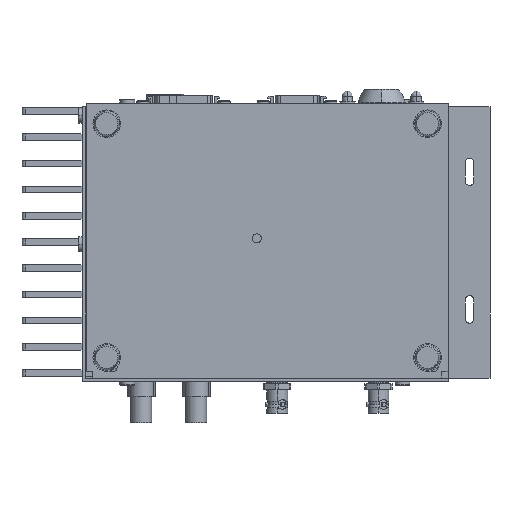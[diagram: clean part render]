
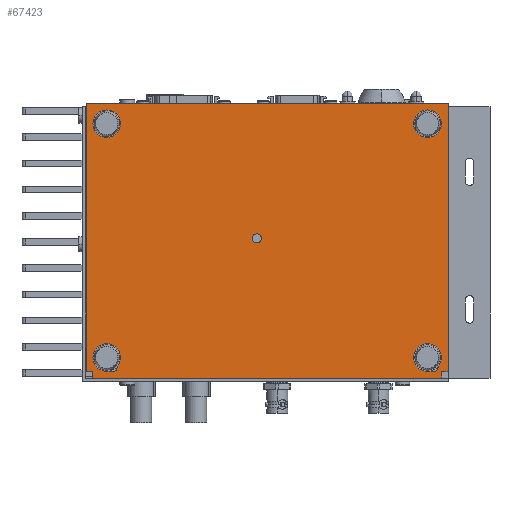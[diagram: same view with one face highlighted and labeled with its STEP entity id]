
A CAD part, front view. The second image highlights one B-rep face of the part: STEP entity #67423.
In plain terms, the highlighted planar face has unit normal (0, -1, 0) as drawn and (0, 0, -1) by its records, which use the part's own axes.
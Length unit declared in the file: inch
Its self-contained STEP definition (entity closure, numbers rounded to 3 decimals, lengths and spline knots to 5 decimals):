
#65182=DIRECTION('',(-1.,0.,0.));
#65183=VECTOR('',#65182,6.58);
#65184=CARTESIAN_POINT('',(6.58,4.998,0.));
#65185=LINE('',#65184,#65183);
#65186=DIRECTION('',(1.,0.,0.));
#65187=VECTOR('',#65186,0.12);
#65188=CARTESIAN_POINT('',(0.,0.12,0.));
#65189=LINE('',#65188,#65187);
#65190=DIRECTION('',(0.,-1.,0.));
#65191=VECTOR('',#65190,0.12);
#65192=CARTESIAN_POINT('',(0.12,0.12,0.));
#65193=LINE('',#65192,#65191);
#65194=DIRECTION('',(1.,0.,0.));
#65195=VECTOR('',#65194,6.34);
#65196=CARTESIAN_POINT('',(0.12,0.,0.));
#65197=LINE('',#65196,#65195);
#65198=DIRECTION('',(0.,1.,0.));
#65199=VECTOR('',#65198,0.12);
#65200=CARTESIAN_POINT('',(6.46,0.,0.));
#65201=LINE('',#65200,#65199);
#65202=DIRECTION('',(1.,0.,0.));
#65203=VECTOR('',#65202,0.12);
#65204=CARTESIAN_POINT('',(6.46,0.12,0.));
#65205=LINE('',#65204,#65203);
#65206=CARTESIAN_POINT('',(6.097,4.75,0.));
#65207=DIRECTION('',(0.,0.,1.));
#65208=DIRECTION('',(1.,0.,0.));
#65209=AXIS2_PLACEMENT_3D('',#65206,#65207,#65208);
#65211=CARTESIAN_POINT('',(6.097,4.75,0.));
#65212=DIRECTION('',(0.,0.,1.));
#65213=DIRECTION('',(-1.,0.,0.));
#65214=AXIS2_PLACEMENT_3D('',#65211,#65212,#65213);
#65216=CARTESIAN_POINT('',(6.097,0.2,0.));
#65217=DIRECTION('',(0.,0.,1.));
#65218=DIRECTION('',(1.,0.,0.));
#65219=AXIS2_PLACEMENT_3D('',#65216,#65217,#65218);
#65221=CARTESIAN_POINT('',(6.097,0.2,0.));
#65222=DIRECTION('',(0.,0.,1.));
#65223=DIRECTION('',(-1.,0.,0.));
#65224=AXIS2_PLACEMENT_3D('',#65221,#65222,#65223);
#65226=CARTESIAN_POINT('',(3.477,2.54,0.));
#65227=DIRECTION('',(0.,0.,1.));
#65228=DIRECTION('',(1.,0.,0.));
#65229=AXIS2_PLACEMENT_3D('',#65226,#65227,#65228);
#65231=CARTESIAN_POINT('',(3.477,2.54,0.));
#65232=DIRECTION('',(0.,0.,1.));
#65233=DIRECTION('',(-1.,0.,0.));
#65234=AXIS2_PLACEMENT_3D('',#65231,#65232,#65233);
#65236=CARTESIAN_POINT('',(0.267,0.2,0.));
#65237=DIRECTION('',(0.,0.,1.));
#65238=DIRECTION('',(1.,0.,0.));
#65239=AXIS2_PLACEMENT_3D('',#65236,#65237,#65238);
#65241=CARTESIAN_POINT('',(0.267,0.2,0.));
#65242=DIRECTION('',(0.,0.,1.));
#65243=DIRECTION('',(-1.,0.,0.));
#65244=AXIS2_PLACEMENT_3D('',#65241,#65242,#65243);
#65246=CARTESIAN_POINT('',(0.267,4.75,0.));
#65247=DIRECTION('',(0.,0.,1.));
#65248=DIRECTION('',(1.,0.,0.));
#65249=AXIS2_PLACEMENT_3D('',#65246,#65247,#65248);
#65251=CARTESIAN_POINT('',(0.267,4.75,0.));
#65252=DIRECTION('',(0.,0.,1.));
#65253=DIRECTION('',(-1.,0.,0.));
#65254=AXIS2_PLACEMENT_3D('',#65251,#65252,#65253);
#65256=DIRECTION('',(0.,-1.,0.));
#65257=VECTOR('',#65256,4.878);
#65258=CARTESIAN_POINT('',(6.58,4.998,0.));
#65259=LINE('',#65258,#65257);
#65606=DIRECTION('',(0.,1.,0.));
#65607=VECTOR('',#65606,4.878);
#65608=CARTESIAN_POINT('',(0.,0.12,0.));
#65609=LINE('',#65608,#65607);
#66858=CARTESIAN_POINT('',(0.12,0.,0.));
#66859=CARTESIAN_POINT('',(6.46,0.,0.));
#66860=VERTEX_POINT('',#66858);
#66861=VERTEX_POINT('',#66859);
#66874=CARTESIAN_POINT('',(6.58,4.998,0.));
#66875=CARTESIAN_POINT('',(0.,4.998,0.));
#66876=VERTEX_POINT('',#66874);
#66877=VERTEX_POINT('',#66875);
#66966=CARTESIAN_POINT('',(0.,0.12,0.));
#66967=CARTESIAN_POINT('',(0.12,0.12,0.));
#66968=VERTEX_POINT('',#66966);
#66969=VERTEX_POINT('',#66967);
#66970=CARTESIAN_POINT('',(6.46,0.12,0.));
#66971=VERTEX_POINT('',#66970);
#66972=CARTESIAN_POINT('',(6.58,0.12,0.));
#66973=VERTEX_POINT('',#66972);
#66978=CARTESIAN_POINT('',(6.18,4.75,0.));
#66979=CARTESIAN_POINT('',(6.014,4.75,0.));
#66980=VERTEX_POINT('',#66978);
#66981=VERTEX_POINT('',#66979);
#66982=CARTESIAN_POINT('',(6.18,0.2,0.));
#66983=CARTESIAN_POINT('',(6.014,0.2,0.));
#66984=VERTEX_POINT('',#66982);
#66985=VERTEX_POINT('',#66983);
#66986=CARTESIAN_POINT('',(3.56,2.54,0.));
#66987=CARTESIAN_POINT('',(3.394,2.54,0.));
#66988=VERTEX_POINT('',#66986);
#66989=VERTEX_POINT('',#66987);
#67090=CARTESIAN_POINT('',(0.35,0.2,0.));
#67091=CARTESIAN_POINT('',(0.184,0.2,0.));
#67092=VERTEX_POINT('',#67090);
#67093=VERTEX_POINT('',#67091);
#67094=CARTESIAN_POINT('',(0.35,4.75,0.));
#67095=CARTESIAN_POINT('',(0.184,4.75,0.));
#67096=VERTEX_POINT('',#67094);
#67097=VERTEX_POINT('',#67095);
#67370=CARTESIAN_POINT('',(0.,0.,0.));
#67371=DIRECTION('',(0.,0.,1.));
#67372=DIRECTION('',(1.,0.,0.));
#67373=AXIS2_PLACEMENT_3D('',#67370,#67371,#67372);
#67374=PLANE('',#67373);
#67376=ORIENTED_EDGE('',*,*,#67375,.F.);
#67378=ORIENTED_EDGE('',*,*,#67377,.T.);
#67380=ORIENTED_EDGE('',*,*,#67379,.F.);
#67382=ORIENTED_EDGE('',*,*,#67381,.T.);
#67384=ORIENTED_EDGE('',*,*,#67383,.T.);
#67386=ORIENTED_EDGE('',*,*,#67385,.T.);
#67388=ORIENTED_EDGE('',*,*,#67387,.T.);
#67390=ORIENTED_EDGE('',*,*,#67389,.T.);
#67391=EDGE_LOOP('',(#67376,#67378,#67380,#67382,#67384,#67386,#67388,#67390));
#67392=FACE_OUTER_BOUND('',#67391,.F.);
#67394=ORIENTED_EDGE('',*,*,#67393,.F.);
#67396=ORIENTED_EDGE('',*,*,#67395,.F.);
#67397=EDGE_LOOP('',(#67394,#67396));
#67398=FACE_BOUND('',#67397,.F.);
#67400=ORIENTED_EDGE('',*,*,#67399,.F.);
#67402=ORIENTED_EDGE('',*,*,#67401,.F.);
#67403=EDGE_LOOP('',(#67400,#67402));
#67404=FACE_BOUND('',#67403,.F.);
#67406=ORIENTED_EDGE('',*,*,#67405,.F.);
#67408=ORIENTED_EDGE('',*,*,#67407,.F.);
#67409=EDGE_LOOP('',(#67406,#67408));
#67410=FACE_BOUND('',#67409,.F.);
#67412=ORIENTED_EDGE('',*,*,#67411,.F.);
#67414=ORIENTED_EDGE('',*,*,#67413,.F.);
#67415=EDGE_LOOP('',(#67412,#67414));
#67416=FACE_BOUND('',#67415,.F.);
#67418=ORIENTED_EDGE('',*,*,#67417,.F.);
#67420=ORIENTED_EDGE('',*,*,#67419,.F.);
#67421=EDGE_LOOP('',(#67418,#67420));
#67422=FACE_BOUND('',#67421,.F.);
#67423=ADVANCED_FACE('',(#67392,#67398,#67404,#67410,#67416,#67422),#67374,.F.);
#65210=CIRCLE('',#65209,0.083);
#65215=CIRCLE('',#65214,0.083);
#65220=CIRCLE('',#65219,0.083);
#65225=CIRCLE('',#65224,0.083);
#65230=CIRCLE('',#65229,0.083);
#65235=CIRCLE('',#65234,0.083);
#65240=CIRCLE('',#65239,0.083);
#65245=CIRCLE('',#65244,0.083);
#65250=CIRCLE('',#65249,0.083);
#65255=CIRCLE('',#65254,0.083);
#67375=EDGE_CURVE('',#66876,#66973,#65259,.T.);
#67377=EDGE_CURVE('',#66876,#66877,#65185,.T.);
#67379=EDGE_CURVE('',#66968,#66877,#65609,.T.);
#67381=EDGE_CURVE('',#66968,#66969,#65189,.T.);
#67383=EDGE_CURVE('',#66969,#66860,#65193,.T.);
#67385=EDGE_CURVE('',#66860,#66861,#65197,.T.);
#67387=EDGE_CURVE('',#66861,#66971,#65201,.T.);
#67389=EDGE_CURVE('',#66971,#66973,#65205,.T.);
#67393=EDGE_CURVE('',#66980,#66981,#65210,.T.);
#67395=EDGE_CURVE('',#66981,#66980,#65215,.T.);
#67399=EDGE_CURVE('',#66984,#66985,#65220,.T.);
#67401=EDGE_CURVE('',#66985,#66984,#65225,.T.);
#67405=EDGE_CURVE('',#66988,#66989,#65230,.T.);
#67407=EDGE_CURVE('',#66989,#66988,#65235,.T.);
#67411=EDGE_CURVE('',#67092,#67093,#65240,.T.);
#67413=EDGE_CURVE('',#67093,#67092,#65245,.T.);
#67417=EDGE_CURVE('',#67096,#67097,#65250,.T.);
#67419=EDGE_CURVE('',#67097,#67096,#65255,.T.);
